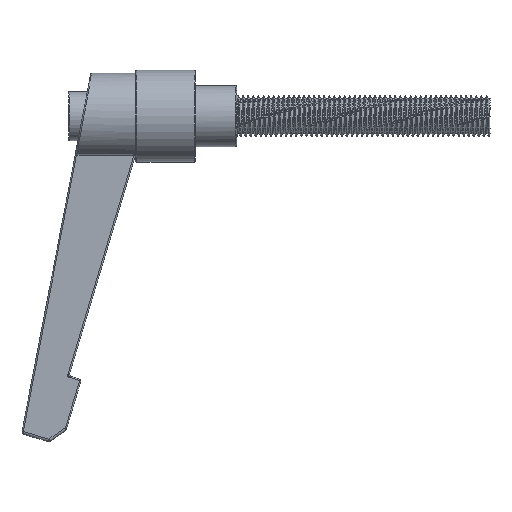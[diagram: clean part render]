
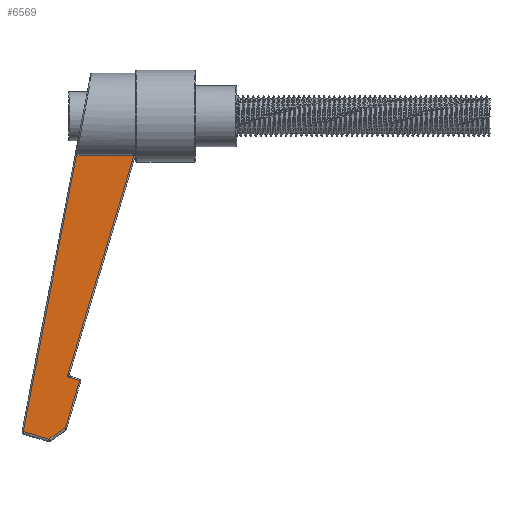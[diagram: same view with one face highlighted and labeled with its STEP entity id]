
A CAD part, left-side view. The second image highlights one B-rep face of the part: STEP entity #6569.
In plain terms, the highlighted planar face has unit normal (-1, 0, 0).
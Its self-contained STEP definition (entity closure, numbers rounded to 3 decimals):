
#681 = EDGE_CURVE ( 'NONE', #3750, #15728, #26683, .T. ) ;
#1367 = B_SPLINE_CURVE_WITH_KNOTS ( 'NONE', 3,
 ( #10180, #21776, #30499, #33322 ),
 .UNSPECIFIED., .F., .F.,
 ( 4, 4 ),
 ( 0., 0. ),
 .UNSPECIFIED. ) ;
#2075 = CARTESIAN_POINT ( 'NONE',  ( -3.9, 0., 0. ) ) ;
#2680 = EDGE_CURVE ( 'NONE', #9790, #34821, #8884, .T. ) ;
#2960 = ORIENTED_EDGE ( 'NONE', *, *, #18505, .T. ) ;
#3553 = VECTOR ( 'NONE', #20303, 1000. ) ;
#3750 = VERTEX_POINT ( 'NONE', #29090 ) ;
#3967 = CARTESIAN_POINT ( 'NONE',  ( -3.9, 22.164, -54.713 ) ) ;
#4915 = VERTEX_POINT ( 'NONE', #7220 ) ;
#5691 = DIRECTION ( 'NONE',  ( -1., 0., 0. ) ) ;
#5864 = ORIENTED_EDGE ( 'NONE', *, *, #27809, .T. ) ;
#6412 = VECTOR ( 'NONE', #33278, 1000. ) ;
#6569 = ADVANCED_FACE ( 'NONE', ( #31694 ), #20328, .T. ) ;
#6984 = VERTEX_POINT ( 'NONE', #19334 ) ;
#7051 = ORIENTED_EDGE ( 'NONE', *, *, #34088, .T. ) ;
#7059 = VECTOR ( 'NONE', #13886, 1000. ) ;
#7220 = CARTESIAN_POINT ( 'NONE',  ( -3.9, 13.492, -43.905 ) ) ;
#8884 = LINE ( 'NONE', #34721, #7059 ) ;
#9543 = CARTESIAN_POINT ( 'NONE',  ( -3.9, 16.898, -56.3 ) ) ;
#9790 = VERTEX_POINT ( 'NONE', #23280 ) ;
#10106 = DIRECTION ( 'NONE',  ( 0., -0.957, -0.289 ) ) ;
#10180 = CARTESIAN_POINT ( 'NONE',  ( -3.9, 11.577, -0.298 ) ) ;
#11016 = CARTESIAN_POINT ( 'NONE',  ( -3.9, 0.239, 0.072 ) ) ;
#11703 = CARTESIAN_POINT ( 'NONE',  ( -3.9, 22.254, -55.181 ) ) ;
#12153 = CARTESIAN_POINT ( 'NONE',  ( -3.9, 11.036, -44.646 ) ) ;
#12539 = EDGE_CURVE ( 'NONE', #21223, #3750, #1367, .T. ) ;
#13297 = EDGE_CURVE ( 'NONE', #34821, #4915, #19543, .T. ) ;
#13886 = DIRECTION ( 'NONE',  ( 0., -0.289, 0.957 ) ) ;
#14906 = DIRECTION ( 'NONE',  ( 0., 0.189, -0.982 ) ) ;
#15728 = VERTEX_POINT ( 'NONE', #3967 ) ;
#16227 = CARTESIAN_POINT ( 'NONE',  ( -3.9, 0., -0.298 ) ) ;
#16319 = AXIS2_PLACEMENT_3D ( 'NONE', #2075, #5691, #37223 ) ;
#16644 = CARTESIAN_POINT ( 'NONE',  ( -3.9, 17.132, -56.23 ) ) ;
#18505 = EDGE_CURVE ( 'NONE', #4915, #6984, #37221, .T. ) ;
#19054 = CARTESIAN_POINT ( 'NONE',  ( -3.9, 14.346, -54.262 ) ) ;
#19208 = ORIENTED_EDGE ( 'NONE', *, *, #13297, .T. ) ;
#19334 = CARTESIAN_POINT ( 'NONE',  ( -3.9, 0.351, -0.298 ) ) ;
#19543 = LINE ( 'NONE', #31669, #3553 ) ;
#20190 = VECTOR ( 'NONE', #27593, 1000. ) ;
#20303 = DIRECTION ( 'NONE',  ( 0., 0.957, 0.289 ) ) ;
#20328 = PLANE ( 'NONE',  #16319 ) ;
#21223 = VERTEX_POINT ( 'NONE', #28074 ) ;
#21446 = VERTEX_POINT ( 'NONE', #16644 ) ;
#21776 = CARTESIAN_POINT ( 'NONE',  ( -3.9, 11.619, -0.298 ) ) ;
#23280 = CARTESIAN_POINT ( 'NONE',  ( -3.9, 13.823, -53.893 ) ) ;
#24979 = VECTOR ( 'NONE', #31314, 1000. ) ;
#26329 = ORIENTED_EDGE ( 'NONE', *, *, #12539, .T. ) ;
#26683 = LINE ( 'NONE', #11703, #29418 ) ;
#27593 = DIRECTION ( 'NONE',  ( 0., -0.817, 0.577 ) ) ;
#27687 = EDGE_CURVE ( 'NONE', #15728, #21446, #32683, .T. ) ;
#27809 = EDGE_CURVE ( 'NONE', #21446, #9790, #36316, .T. ) ;
#28074 = CARTESIAN_POINT ( 'NONE',  ( -3.9, 11.577, -0.298 ) ) ;
#28699 = EDGE_LOOP ( 'NONE', ( #7051, #26329, #34842, #36182, #5864, #32504, #19208, #2960 ) ) ;
#29090 = CARTESIAN_POINT ( 'NONE',  ( -3.9, 11.7, -0.286 ) ) ;
#29418 = VECTOR ( 'NONE', #14906, 1000. ) ;
#30499 = CARTESIAN_POINT ( 'NONE',  ( -3.9, 11.66, -0.294 ) ) ;
#31314 = DIRECTION ( 'NONE',  ( 0., -0.289, 0.957 ) ) ;
#31669 = CARTESIAN_POINT ( 'NONE',  ( -3.9, 13.253, -43.978 ) ) ;
#31681 = VECTOR ( 'NONE', #10106, 1000. ) ;
#31694 = FACE_OUTER_BOUND ( 'NONE', #28699, .T. ) ;
#32504 = ORIENTED_EDGE ( 'NONE', *, *, #2680, .T. ) ;
#32683 = LINE ( 'NONE', #9543, #31681 ) ;
#33278 = DIRECTION ( 'NONE',  ( 0., 1., 0. ) ) ;
#33322 = CARTESIAN_POINT ( 'NONE',  ( -3.9, 11.7, -0.286 ) ) ;
#34088 = EDGE_CURVE ( 'NONE', #6984, #21223, #36153, .T. ) ;
#34721 = CARTESIAN_POINT ( 'NONE',  ( -3.9, 10.964, -44.406 ) ) ;
#34821 = VERTEX_POINT ( 'NONE', #12153 ) ;
#34842 = ORIENTED_EDGE ( 'NONE', *, *, #681, .T. ) ;
#36153 = LINE ( 'NONE', #16227, #6412 ) ;
#36182 = ORIENTED_EDGE ( 'NONE', *, *, #27687, .T. ) ;
#36316 = LINE ( 'NONE', #19054, #20190 ) ;
#37221 = LINE ( 'NONE', #11016, #24979 ) ;
#37223 = DIRECTION ( 'NONE',  ( 0., 0., 1. ) ) ;
